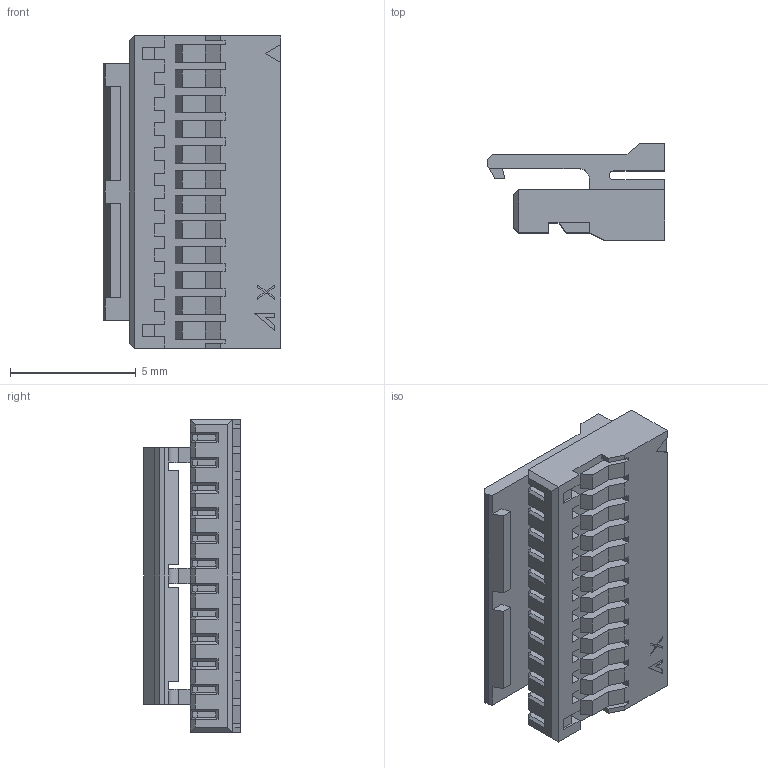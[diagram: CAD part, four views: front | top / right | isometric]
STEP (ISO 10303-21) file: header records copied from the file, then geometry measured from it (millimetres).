
FILE_DESCRIPTION((''),'2;1');
FILE_NAME('S-92253-012HXXX-XXX','2019-11-23T',('k49820'),(''),'PRO/ENGINEER BY PARAMETRIC TECHNOLOGY CORPORATION, 2009360','PRO/ENGINEER BY PARAMETRIC TECHNOLOGY CORPORATION, 2009360','');
FILE_SCHEMA(('CONFIG_CONTROL_DESIGN'));
Length unit declared in the file: millimetre
Products named in the file (1): S-92253-012HXXX-XXX
Bounding box: 7.05 x 3.85 x 12.4 mm (x, y, z)
Volume: 173.8 mm3; surface area: 484.1 mm2
Topology: 1 solids, 13 shells, 516 faces, 1346 edges, 866 vertices
Faces by surface type: plane 510, cylinder 6
Entity records: 15398 total; most frequent: CARTESIAN_POINT 2728, ORIENTED_EDGE 2692, DIRECTION 2396, EDGE_CURVE 1346, VECTOR 1328, LINE 1328, VERTEX_POINT 866, AXIS2_PLACEMENT_3D 534
